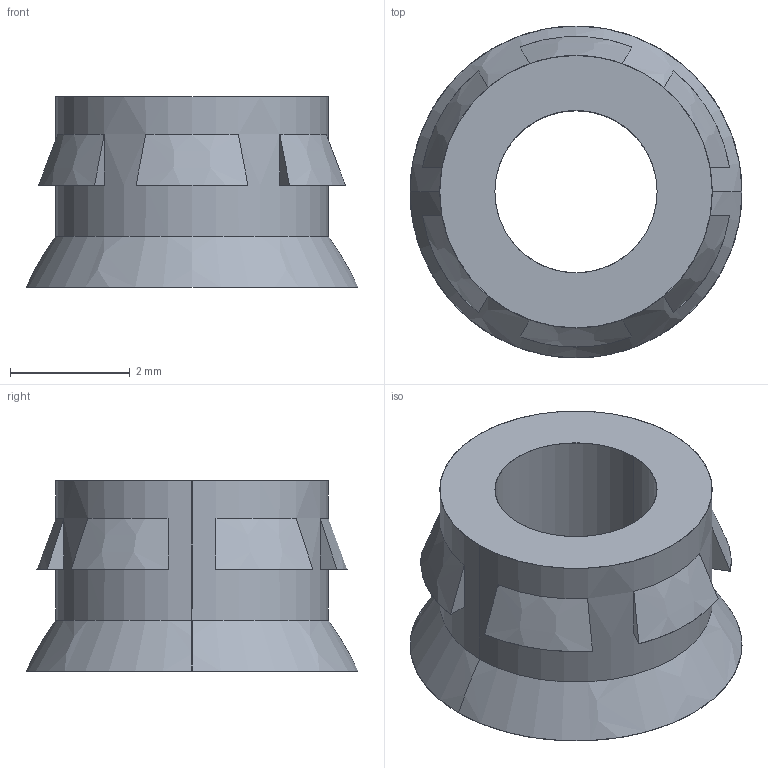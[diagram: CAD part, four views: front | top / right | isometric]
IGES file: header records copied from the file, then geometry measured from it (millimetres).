
Start section: SolidWorks IGES file using analytic representation for surfaces
Global section: file name: G:\thermofab project\INSERT\insert project\INSERT 3D\Insert 6-32 S1.IGS; native system: SolidWorks 2015; preprocessor: SolidWorks 2015; author: Administrator; date: 170809.123745; units: millimetre
Bounding box: 5.54 x 5.54 x 3.17 mm (x, y, z)
Surface area: 109.5 mm2 (no closed solid volume)
Topology: 0 solids, 0 shells, 34 faces, 304 edges, 304 vertices
Faces by surface type: bspline 28, revolution 6
